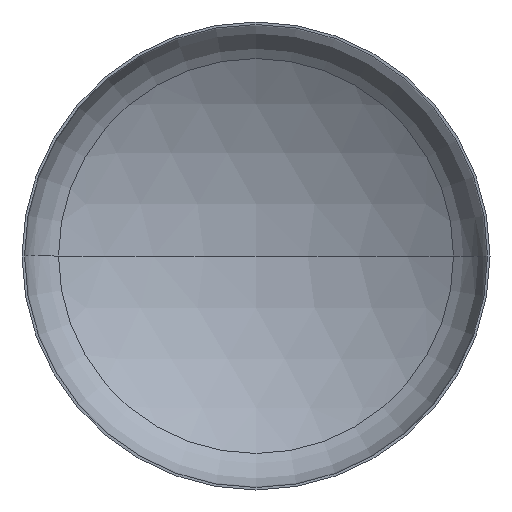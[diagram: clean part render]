
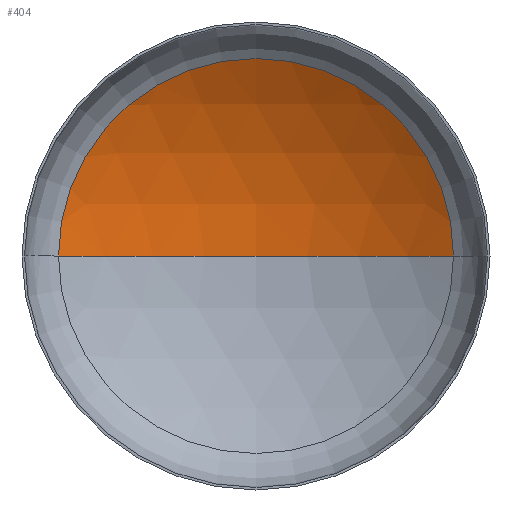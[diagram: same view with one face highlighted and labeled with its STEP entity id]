
A CAD part, front view. The second image highlights one B-rep face of the part: STEP entity #404.
In plain terms, the highlighted spherical face has radius 6400 mm.
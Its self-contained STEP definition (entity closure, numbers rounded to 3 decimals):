
#18 = CARTESIAN_POINT ( 'NONE',  ( 3375.783, 1174.979, 0. ) ) ;
#37 = AXIS2_PLACEMENT_3D ( 'NONE', #175, #171, #168 ) ;
#38 = AXIS2_PLACEMENT_3D ( 'NONE', #261, #260, #256 ) ;
#40 = AXIS2_PLACEMENT_3D ( 'NONE', #254, #250, #124 ) ;
#78 = EDGE_CURVE ( 'NONE', #225, #106, #355, .T. ) ;
#81 = EDGE_CURVE ( 'NONE', #347, #225, #209, .T. ) ;
#84 = EDGE_CURVE ( 'NONE', #347, #106, #127, .T. ) ;
#95 = DIRECTION ( 'NONE',  ( -1., 0., 0. ) ) ;
#106 = VERTEX_POINT ( 'NONE', #266 ) ;
#124 = DIRECTION ( 'NONE',  ( 1., 0., 0. ) ) ;
#127 = CIRCLE ( 'NONE', #37, 6400. ) ;
#133 = SPHERICAL_SURFACE ( 'NONE', #322, 6400. ) ;
#141 = ORIENTED_EDGE ( 'NONE', *, *, #84, .F. ) ;
#167 = ORIENTED_EDGE ( 'NONE', *, *, #78, .T. ) ;
#168 = DIRECTION ( 'NONE',  ( 1., 0., 0. ) ) ;
#171 = DIRECTION ( 'NONE',  ( 0., 0., 1. ) ) ;
#175 = CARTESIAN_POINT ( 'NONE',  ( 0., -4262.308, 0. ) ) ;
#180 = CARTESIAN_POINT ( 'NONE',  ( 0., 2137.692, 0. ) ) ;
#190 = EDGE_LOOP ( 'NONE', ( #141, #397, #167 ) ) ;
#209 = CIRCLE ( 'NONE', #38, 6400. ) ;
#221 = DIRECTION ( 'NONE',  ( 0., 0., -1. ) ) ;
#225 = VERTEX_POINT ( 'NONE', #18 ) ;
#250 = DIRECTION ( 'NONE',  ( 0., -1., 0. ) ) ;
#254 = CARTESIAN_POINT ( 'NONE',  ( 0., 1174.979, 0. ) ) ;
#256 = DIRECTION ( 'NONE',  ( -1., 0., 0. ) ) ;
#260 = DIRECTION ( 'NONE',  ( 0., 0., -1. ) ) ;
#261 = CARTESIAN_POINT ( 'NONE',  ( 0., -4262.308, 0. ) ) ;
#266 = CARTESIAN_POINT ( 'NONE',  ( -3375.783, 1174.979, 0. ) ) ;
#270 = CARTESIAN_POINT ( 'NONE',  ( 0., -4262.308, 0. ) ) ;
#322 = AXIS2_PLACEMENT_3D ( 'NONE', #270, #221, #95 ) ;
#347 = VERTEX_POINT ( 'NONE', #180 ) ;
#355 = CIRCLE ( 'NONE', #40, 3375.783 ) ;
#360 = FACE_OUTER_BOUND ( 'NONE', #190, .T. ) ;
#397 = ORIENTED_EDGE ( 'NONE', *, *, #81, .T. ) ;
#404 = ADVANCED_FACE ( 'NONE', ( #360 ), #133, .F. ) ;
